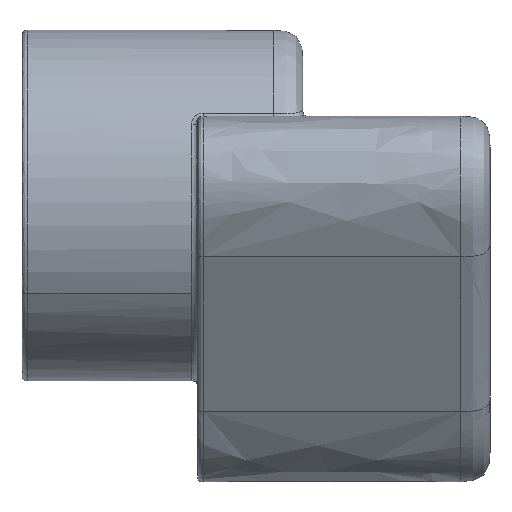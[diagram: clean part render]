
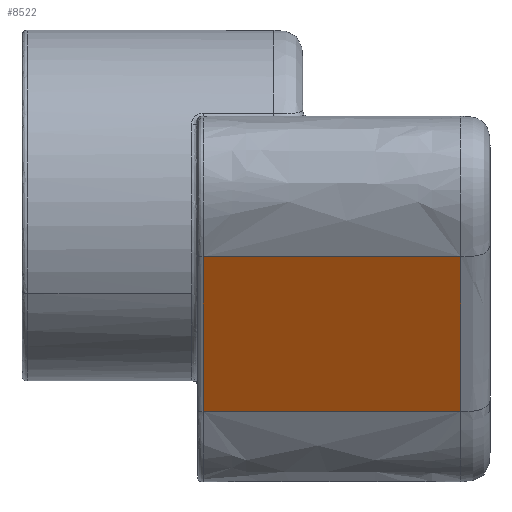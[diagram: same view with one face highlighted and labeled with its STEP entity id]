
A CAD part, left-side view. The second image highlights one B-rep face of the part: STEP entity #8522.
In plain terms, the highlighted planar face has unit normal (-0.866, 0, -0.5).
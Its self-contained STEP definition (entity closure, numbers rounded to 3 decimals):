
#228 = EDGE_LOOP ( 'NONE', ( #3624, #11617, #10759, #2214 ) ) ;
#640 = AXIS2_PLACEMENT_3D ( 'NONE', #10398, #2936, #3894 ) ;
#2214 = ORIENTED_EDGE ( 'NONE', *, *, #11782, .T. ) ;
#2484 = B_SPLINE_CURVE_WITH_KNOTS ( 'NONE', 3,
 ( #11850, #13067, #12978, #6721 ),
 .UNSPECIFIED., .F., .F.,
 ( 4, 4 ),
 ( 0., 1. ),
 .UNSPECIFIED. ) ;
#2865 = CARTESIAN_POINT ( 'NONE',  ( -3502.463, 245., -120. ) ) ;
#2936 = DIRECTION ( 'NONE',  ( 0.866, 0., 0.5 ) ) ;
#3016 = CARTESIAN_POINT ( 'NONE',  ( -3426.027, 25., -252.391 ) ) ;
#3031 = EDGE_CURVE ( 'NONE', #4734, #12090, #2484, .T. ) ;
#3313 = CARTESIAN_POINT ( 'NONE',  ( -3476.984, 25., -164.13 ) ) ;
#3624 = ORIENTED_EDGE ( 'NONE', *, *, #10511, .T. ) ;
#3662 = CARTESIAN_POINT ( 'NONE',  ( -3426.027, 25., -252.391 ) ) ;
#3894 = DIRECTION ( 'NONE',  ( 0.5, 0., -0.866 ) ) ;
#3966 = CARTESIAN_POINT ( 'NONE',  ( -3451.505, 25., -208.261 ) ) ;
#4060 = EDGE_CURVE ( 'NONE', #12090, #5838, #5548, .T. ) ;
#4350 = B_SPLINE_CURVE_WITH_KNOTS ( 'NONE', 3,
 ( #10284, #3966, #3313, #6429 ),
 .UNSPECIFIED., .F., .F.,
 ( 4, 4 ),
 ( 0., 1. ),
 .UNSPECIFIED. ) ;
#4734 = VERTEX_POINT ( 'NONE', #2865 ) ;
#4861 = CARTESIAN_POINT ( 'NONE',  ( -3426.027, 171.667, -252.391 ) ) ;
#5206 = CARTESIAN_POINT ( 'NONE',  ( -3502.463, 245., -120. ) ) ;
#5548 = B_SPLINE_CURVE_WITH_KNOTS ( 'NONE', 3,
 ( #11268, #4861, #6175, #3016 ),
 .UNSPECIFIED., .F., .F.,
 ( 4, 4 ),
 ( 0.02, 0.9 ),
 .UNSPECIFIED. ) ;
#5838 = VERTEX_POINT ( 'NONE', #3662 ) ;
#6042 = CARTESIAN_POINT ( 'NONE',  ( -3502.463, 25., -120. ) ) ;
#6175 = CARTESIAN_POINT ( 'NONE',  ( -3426.027, 98.333, -252.391 ) ) ;
#6429 = CARTESIAN_POINT ( 'NONE',  ( -3502.463, 25., -120. ) ) ;
#6721 = CARTESIAN_POINT ( 'NONE',  ( -3426.027, 245., -252.391 ) ) ;
#7301 = CARTESIAN_POINT ( 'NONE',  ( -3502.463, 171.667, -120. ) ) ;
#7573 = FACE_OUTER_BOUND ( 'NONE', #228, .T. ) ;
#8185 = PLANE ( 'NONE',  #640 ) ;
#8522 = ADVANCED_FACE ( 'NONE', ( #7573 ), #8185, .F. ) ;
#8700 = VERTEX_POINT ( 'NONE', #6042 ) ;
#9375 = CARTESIAN_POINT ( 'NONE',  ( -3502.463, 25., -120. ) ) ;
#10284 = CARTESIAN_POINT ( 'NONE',  ( -3426.027, 25., -252.391 ) ) ;
#10398 = CARTESIAN_POINT ( 'NONE',  ( -3571.745, 250., 0. ) ) ;
#10511 = EDGE_CURVE ( 'NONE', #8700, #4734, #13687, .T. ) ;
#10759 = ORIENTED_EDGE ( 'NONE', *, *, #4060, .T. ) ;
#11268 = CARTESIAN_POINT ( 'NONE',  ( -3426.027, 245., -252.391 ) ) ;
#11617 = ORIENTED_EDGE ( 'NONE', *, *, #3031, .T. ) ;
#11782 = EDGE_CURVE ( 'NONE', #5838, #8700, #4350, .T. ) ;
#11850 = CARTESIAN_POINT ( 'NONE',  ( -3502.463, 245., -120. ) ) ;
#12090 = VERTEX_POINT ( 'NONE', #12750 ) ;
#12750 = CARTESIAN_POINT ( 'NONE',  ( -3426.027, 245., -252.391 ) ) ;
#12978 = CARTESIAN_POINT ( 'NONE',  ( -3451.505, 245., -208.261 ) ) ;
#13067 = CARTESIAN_POINT ( 'NONE',  ( -3476.984, 245., -164.13 ) ) ;
#13665 = CARTESIAN_POINT ( 'NONE',  ( -3502.463, 98.333, -120. ) ) ;
#13687 = B_SPLINE_CURVE_WITH_KNOTS ( 'NONE', 3,
 ( #9375, #13665, #7301, #5206 ),
 .UNSPECIFIED., .F., .F.,
 ( 4, 4 ),
 ( 0.1, 0.98 ),
 .UNSPECIFIED. ) ;
